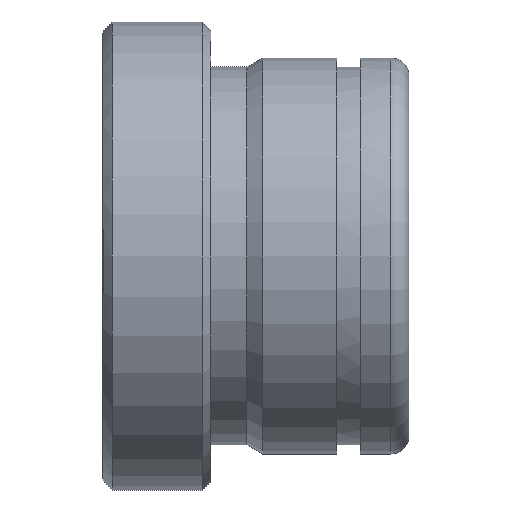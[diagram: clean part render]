
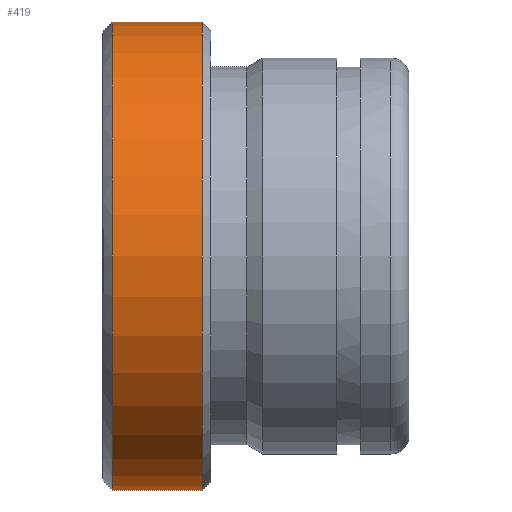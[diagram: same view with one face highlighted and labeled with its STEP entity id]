
A CAD part, front view. The second image highlights one B-rep face of the part: STEP entity #419.
In plain terms, the highlighted cylindrical face has radius 13 mm (diameter 26 mm), a partial arc.
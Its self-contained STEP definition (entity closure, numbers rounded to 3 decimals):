
#231=CARTESIAN_POINT('Vertex',(0.5,0.,-13.)) ;
#238=CARTESIAN_POINT('Vertex',(0.5,0.,13.)) ;
#267=CARTESIAN_POINT('Axis2P3D Location',(0.5,0.,0.)) ;
#271=CARTESIAN_POINT('Vertex',(0.5,-13.,0.)) ;
#274=CARTESIAN_POINT('Axis2P3D Location',(0.5,0.,0.)) ;
#359=CARTESIAN_POINT('Line Origine',(34.,0.,13.)) ;
#363=CARTESIAN_POINT('Vertex',(5.5,0.,13.)) ;
#377=CARTESIAN_POINT('Vertex',(5.5,0.,-13.)) ;
#380=CARTESIAN_POINT('Line Origine',(34.,0.,-13.)) ;
#394=CARTESIAN_POINT('Axis2P3D Location',(34.,0.,0.)) ;
#399=CARTESIAN_POINT('Axis2P3D Location',(5.5,0.,0.)) ;
#403=CARTESIAN_POINT('Vertex',(5.5,-13.,0.)) ;
#406=CARTESIAN_POINT('Axis2P3D Location',(5.5,0.,0.)) ;
#268=DIRECTION('Axis2P3D Direction',(1.,0.,-0.)) ;
#275=DIRECTION('Axis2P3D Direction',(1.,0.,-0.)) ;
#360=DIRECTION('Vector Direction',(-1.,0.,0.)) ;
#381=DIRECTION('Vector Direction',(-1.,0.,0.)) ;
#395=DIRECTION('Axis2P3D Direction',(-1.,-0.,-0.)) ;
#396=DIRECTION('Axis2P3D XDirection',(0.,0.,-1.)) ;
#400=DIRECTION('Axis2P3D Direction',(-1.,-0.,-0.)) ;
#407=DIRECTION('Axis2P3D Direction',(-1.,-0.,-0.)) ;
#269=AXIS2_PLACEMENT_3D('Circle Axis2P3D',#267,#268,$) ;
#276=AXIS2_PLACEMENT_3D('Circle Axis2P3D',#274,#275,$) ;
#397=AXIS2_PLACEMENT_3D('Cylinder Axis2P3D',#394,#395,#396) ;
#401=AXIS2_PLACEMENT_3D('Circle Axis2P3D',#399,#400,$) ;
#408=AXIS2_PLACEMENT_3D('Circle Axis2P3D',#406,#407,$) ;
#412=ORIENTED_EDGE('',*,*,#384,.T.) ;
#413=ORIENTED_EDGE('',*,*,#405,.F.) ;
#414=ORIENTED_EDGE('',*,*,#410,.F.) ;
#415=ORIENTED_EDGE('',*,*,#365,.T.) ;
#416=ORIENTED_EDGE('',*,*,#278,.T.) ;
#417=ORIENTED_EDGE('',*,*,#273,.T.) ;
#361=VECTOR('Line Direction',#360,1.) ;
#382=VECTOR('Line Direction',#381,1.) ;
#419=ADVANCED_FACE('553-16X17',(#418),#398,.T.) ;
#270=CIRCLE('generated circle',#269,13.) ;
#277=CIRCLE('generated circle',#276,13.) ;
#402=CIRCLE('generated circle',#401,13.) ;
#409=CIRCLE('generated circle',#408,13.) ;
#398=CYLINDRICAL_SURFACE('generated cylinder',#397,13.) ;
#273=EDGE_CURVE('',#272,#232,#270,.T.) ;
#278=EDGE_CURVE('',#239,#272,#277,.T.) ;
#365=EDGE_CURVE('',#364,#239,#362,.T.) ;
#384=EDGE_CURVE('',#232,#378,#383,.F.) ;
#405=EDGE_CURVE('',#404,#378,#402,.F.) ;
#410=EDGE_CURVE('',#364,#404,#409,.F.) ;
#411=EDGE_LOOP('',(#412,#413,#414,#415,#416,#417)) ;
#418=FACE_OUTER_BOUND('',#411,.T.) ;
#362=LINE('Line',#359,#361) ;
#383=LINE('Line',#380,#382) ;
#232=VERTEX_POINT('',#231) ;
#239=VERTEX_POINT('',#238) ;
#272=VERTEX_POINT('',#271) ;
#364=VERTEX_POINT('',#363) ;
#378=VERTEX_POINT('',#377) ;
#404=VERTEX_POINT('',#403) ;
